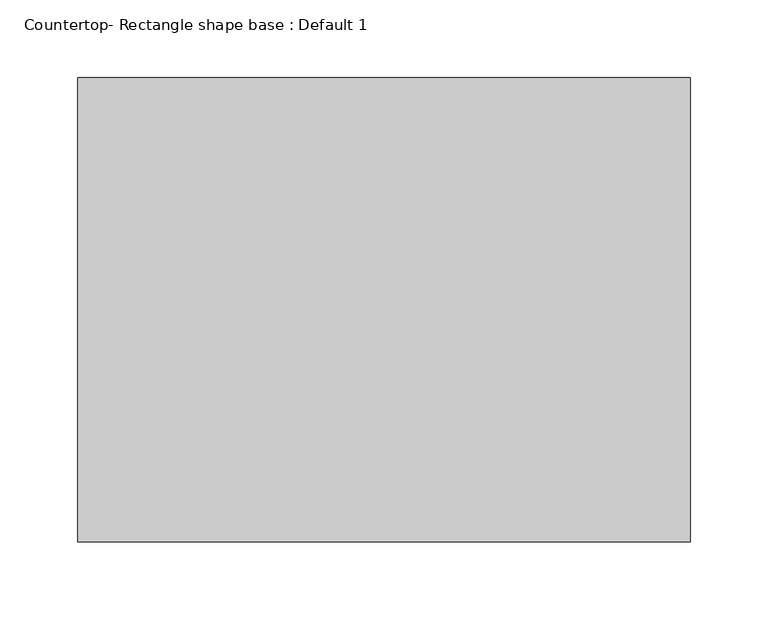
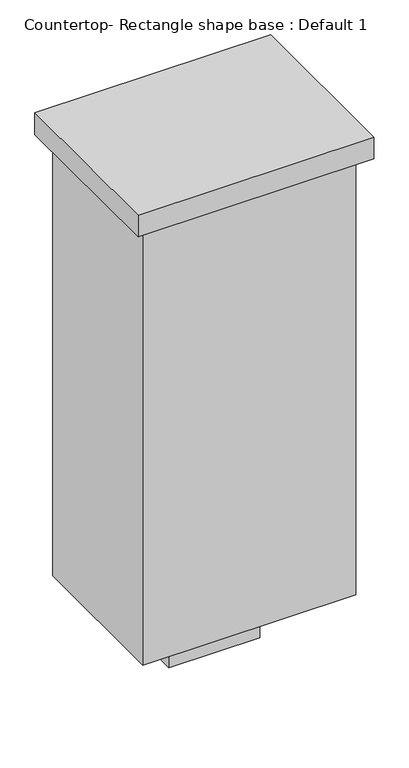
"""IFC4 building model written with IfcOpenShell, lengths in millimetres: proxy geometry, Countertop- Rectangle shape base : Default 1."""

from ifc_helpers import new_model, si_unit, frame, origin, origin_with_axes, place, context, project, spatial, polyline, outline, extrude, source, transform, mapped, element, save


def countertop_rectangle_shape_base_default_1_9bd07cfa(model_context):
    return source(origin(), model_context, "Body", "SweptSolid", [
        extrude(outline(polyline([(565.1533173, 231.775), (565.1533173, 530.225), (958.8466827, 530.225), (958.8466827, 231.775), (565.1533173, 231.775)])), frame((0.0, 0.0, 876.3), z_axis=(0.0, 0.0, 1.0), x_axis=(1.0, 0.0, 0.0)), (0.0, 0.0, 1.0), 38.1),
        extrude(outline(polyline([(939.7966827, 511.175), (939.7966827, 250.825), (584.2033173, 250.825), (584.2033173, 511.175), (939.7966827, 511.175)])), frame((0.0, 0.0, 101.6), z_axis=(0.0, 0.0, 1.0), x_axis=(1.0, 0.0, 0.0)), (0.0, 0.0, 1.0), 774.7),
        extrude(outline(polyline([(838.1966827, 409.575), (838.1966827, 352.425), (685.8033173, 352.425), (685.8033173, 409.575), (838.1966827, 409.575)])), origin_with_axes(), (0.0, 0.0, 1.0), 101.6),
    ])


if __name__ == "__main__":
    model = new_model("IFC4")
    model_context = context("Model", 3, world=origin())
    ifc_project = project(units=[si_unit("LENGTHUNIT", "METRE", prefix="MILLI")], contexts=[model_context])
    site = spatial("IfcSite", under=ifc_project)
    building = spatial("IfcBuilding", under=site)
    placement = place(None, origin())
    countertop_rectangle_shape_base_default_1_shape = countertop_rectangle_shape_base_default_1_9bd07cfa(model_context)
    element("IfcBuildingElementProxy", 1, Name="Countertop- Rectangle shape base : Default 1", ObjectType="Countertop- Rectangle shape base : Default 1", at=placement, inside=building, context=model_context, shape_type="MappedRepresentation", body=[
        mapped(countertop_rectangle_shape_base_default_1_shape, transform((0.0, 0.0, 0.0), x_axis=(1.0, 0.0, 0.0), y_axis=(0.0, 1.0, 0.0), z_axis=(0.0, 0.0, 1.0))),
    ])
    save(model, "model.ifc")
